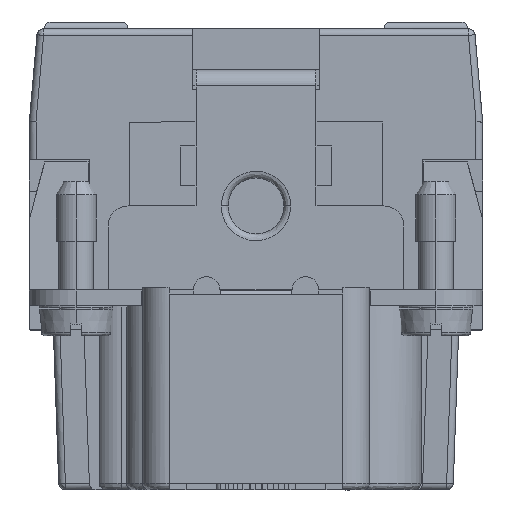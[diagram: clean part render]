
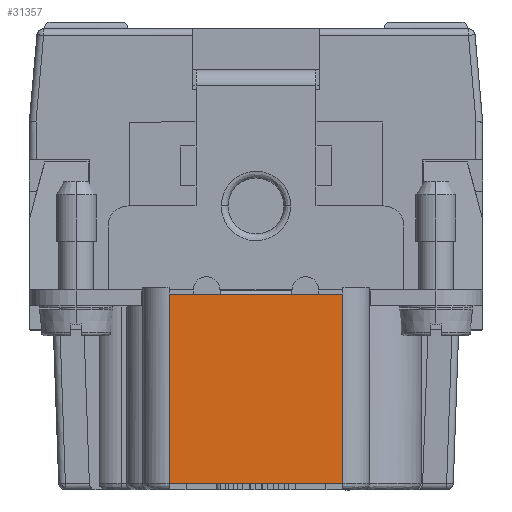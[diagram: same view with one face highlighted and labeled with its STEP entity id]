
A CAD part, left-side view. The second image highlights one B-rep face of the part: STEP entity #31357.
In plain terms, the highlighted planar face has unit normal (-1, 0, 0).
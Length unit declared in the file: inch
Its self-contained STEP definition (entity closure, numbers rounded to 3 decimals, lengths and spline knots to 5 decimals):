
#1791 = AXIS2_PLACEMENT_3D ( 'NONE', #109842, #37234, #122021 ) ;
#1871 = CARTESIAN_POINT ( 'NONE',  ( 0.61794, 5.32188, -0.18898 ) ) ;
#6948 = DIRECTION ( 'NONE',  ( 0., 0., -1. ) ) ;
#9753 = CARTESIAN_POINT ( 'NONE',  ( 0.61794, 4.80104, -0.74803 ) ) ;
#12947 = LINE ( 'NONE', #36319, #73348 ) ;
#28023 = LINE ( 'NONE', #72039, #92416 ) ;
#28707 = ORIENTED_EDGE ( 'NONE', *, *, #119535, .F. ) ;
#29264 = VERTEX_POINT ( 'NONE', #141545 ) ;
#31357 = ADVANCED_FACE ( 'NONE', ( #44337 ), #133652, .T. ) ;
#36319 = CARTESIAN_POINT ( 'NONE',  ( 0.61794, 5.07553, -0.18898 ) ) ;
#37234 = DIRECTION ( 'NONE',  ( -1., 0., 0. ) ) ;
#44337 = FACE_OUTER_BOUND ( 'NONE', #81135, .T. ) ;
#48525 = DIRECTION ( 'NONE',  ( 0., -1., 0. ) ) ;
#58889 = ORIENTED_EDGE ( 'NONE', *, *, #157029, .F. ) ;
#63040 = LINE ( 'NONE', #91461, #95270 ) ;
#72039 = CARTESIAN_POINT ( 'NONE',  ( 0.61794, 5.32188, 0. ) ) ;
#73348 = VECTOR ( 'NONE', #48525, 39.37008 ) ;
#81135 = EDGE_LOOP ( 'NONE', ( #58889, #126727, #139238, #28707 ) ) ;
#82082 = DIRECTION ( 'NONE',  ( 0., 1., 0. ) ) ;
#90431 = VERTEX_POINT ( 'NONE', #1871 ) ;
#91461 = CARTESIAN_POINT ( 'NONE',  ( 0.61794, 4.81007, 0. ) ) ;
#92416 = VECTOR ( 'NONE', #156822, 39.37008 ) ;
#95270 = VECTOR ( 'NONE', #6948, 39.37008 ) ;
#109842 = CARTESIAN_POINT ( 'NONE',  ( 0.61794, 4.39668, -0.14567 ) ) ;
#111413 = LINE ( 'NONE', #9753, #143555 ) ;
#119535 = EDGE_CURVE ( 'NONE', #121615, #143811, #63040, .T. ) ;
#121615 = VERTEX_POINT ( 'NONE', #141928 ) ;
#122021 = DIRECTION ( 'NONE',  ( 0., 0., 1. ) ) ;
#123946 = CARTESIAN_POINT ( 'NONE',  ( 0.61794, 4.81007, -0.74803 ) ) ;
#126575 = EDGE_CURVE ( 'NONE', #143811, #29264, #111413, .T. ) ;
#126727 = ORIENTED_EDGE ( 'NONE', *, *, #151628, .F. ) ;
#133652 = PLANE ( 'NONE',  #1791 ) ;
#139238 = ORIENTED_EDGE ( 'NONE', *, *, #126575, .F. ) ;
#141545 = CARTESIAN_POINT ( 'NONE',  ( 0.61794, 5.32188, -0.74803 ) ) ;
#141928 = CARTESIAN_POINT ( 'NONE',  ( 0.61794, 4.81007, -0.18898 ) ) ;
#143555 = VECTOR ( 'NONE', #82082, 39.37008 ) ;
#143811 = VERTEX_POINT ( 'NONE', #123946 ) ;
#151628 = EDGE_CURVE ( 'NONE', #29264, #90431, #28023, .T. ) ;
#156822 = DIRECTION ( 'NONE',  ( 0., 0., 1. ) ) ;
#157029 = EDGE_CURVE ( 'NONE', #90431, #121615, #12947, .T. ) ;
